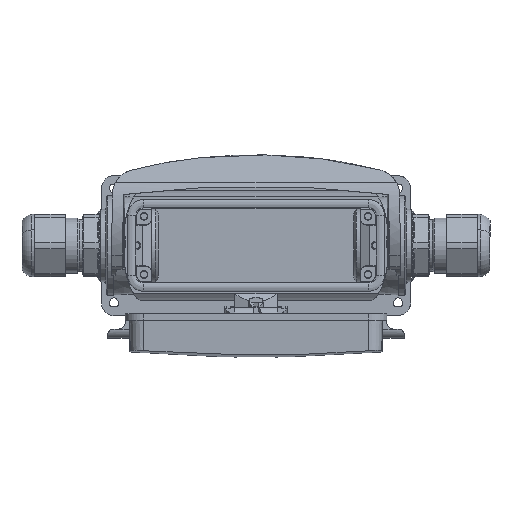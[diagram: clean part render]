
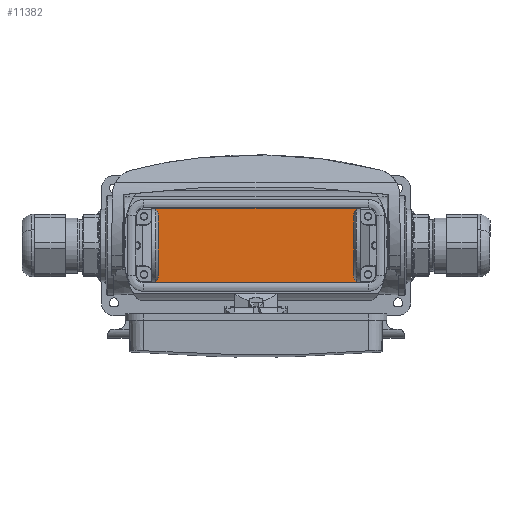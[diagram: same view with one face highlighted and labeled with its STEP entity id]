
A CAD part, top view. The second image highlights one B-rep face of the part: STEP entity #11382.
In plain terms, the highlighted planar face has unit normal (0, 0, 1).
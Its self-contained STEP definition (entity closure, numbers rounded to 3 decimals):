
#7350=PLANE('',#25451);
#8424=LINE('',#35234,#10075);
#8499=LINE('',#35454,#10150);
#8513=LINE('',#35485,#10164);
#8523=LINE('',#35504,#10174);
#10075=VECTOR('',#28457,1.);
#10150=VECTOR('',#28620,1.);
#10164=VECTOR('',#28638,1.);
#10174=VECTOR('',#28650,1.);
#11382=ADVANCED_FACE('',(#12335),#7350,.F.);
#12335=FACE_OUTER_BOUND('',#13303,.T.);
#13303=EDGE_LOOP('',(#16595,#16596,#16597,#16598));
#16595=ORIENTED_EDGE('',*,*,#22394,.F.);
#16596=ORIENTED_EDGE('',*,*,#22284,.T.);
#16597=ORIENTED_EDGE('',*,*,#22409,.F.);
#16598=ORIENTED_EDGE('',*,*,#22419,.T.);
#20208=VERTEX_POINT('',#35233);
#20209=VERTEX_POINT('',#35235);
#20310=VERTEX_POINT('',#35455);
#20324=VERTEX_POINT('',#35484);
#22284=EDGE_CURVE('',#20209,#20208,#8424,.T.);
#22394=EDGE_CURVE('',#20209,#20310,#8499,.T.);
#22409=EDGE_CURVE('',#20324,#20208,#8513,.T.);
#22419=EDGE_CURVE('',#20324,#20310,#8523,.T.);
#25451=AXIS2_PLACEMENT_3D('',#35682,#28742,#28743);
#28457=DIRECTION('',(-1.,0.,0.));
#28620=DIRECTION('',(0.,-1.,0.));
#28638=DIRECTION('',(0.,1.,0.));
#28650=DIRECTION('',(1.,0.,0.));
#28742=DIRECTION('',(0.,0.,-1.));
#28743=DIRECTION('',(-1.,0.,0.));
#35233=CARTESIAN_POINT('',(-48.488,17.425,-70.2));
#35234=CARTESIAN_POINT('',(0.,17.425,-70.2));
#35235=CARTESIAN_POINT('',(48.488,17.425,-70.2));
#35454=CARTESIAN_POINT('',(48.488,0.,-70.2));
#35455=CARTESIAN_POINT('',(48.488,-17.425,-70.2));
#35484=CARTESIAN_POINT('',(-48.488,-17.425,-70.2));
#35485=CARTESIAN_POINT('',(-48.488,-13.649,-70.2));
#35504=CARTESIAN_POINT('',(0.,-17.425,-70.2));
#35682=CARTESIAN_POINT('',(0.,0.,-70.2));
